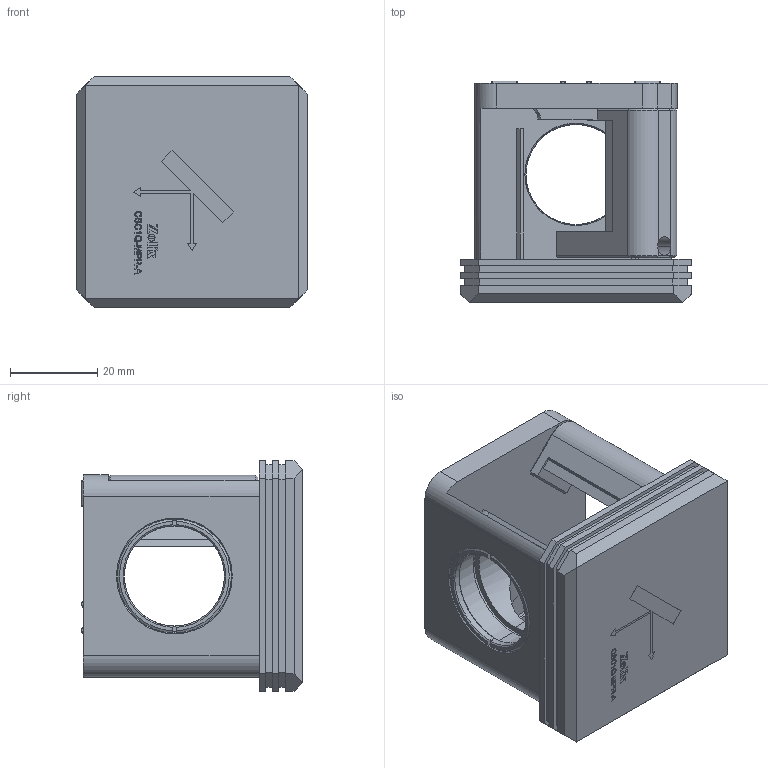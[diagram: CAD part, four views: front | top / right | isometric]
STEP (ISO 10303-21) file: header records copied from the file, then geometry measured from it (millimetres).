
FILE_DESCRIPTION (( 'STEP AP203' ), '1' );
FILE_NAME ('CSC1Q-MPR-A.STEP', '2024-03-28T03:20:24', ( '' ), ( '' ), 'SwSTEP 2.0', 'SolidWorks 2021', '' );
FILE_SCHEMA (( 'CONFIG_CONTROL_DESIGN' ));
Length unit declared in the file: millimetre
Products named in the file (1): CSC1Q-MPR-A
Bounding box: 53 x 50.9 x 53 mm (x, y, z)
Surface area: 22587.9 mm2 (no closed solid volume)
Topology: 0 solids, 31 shells, 382 faces, 1579 edges, 1211 vertices
Faces by surface type: plane 232, cylinder 72, cone 60, torus 12, bspline 6
Entity records: 18279 total; most frequent: CARTESIAN_POINT 5549, DIRECTION 2499, ORIENTED_EDGE 2337, EDGE_CURVE 1571, VERTEX_POINT 1211, VECTOR 1085, LINE 1085, AXIS2_PLACEMENT_3D 707
